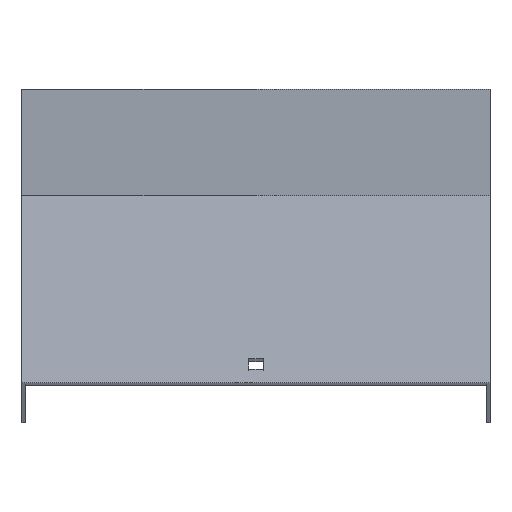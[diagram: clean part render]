
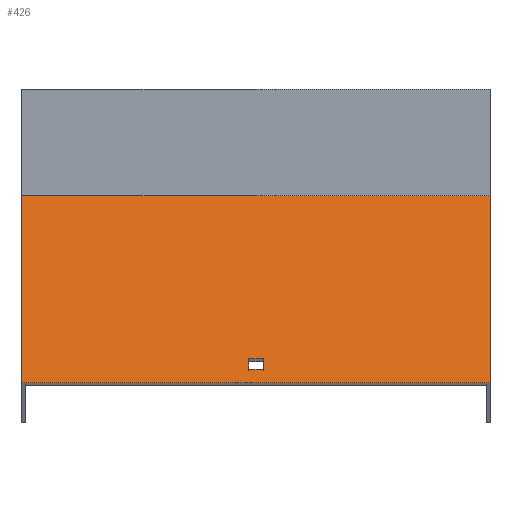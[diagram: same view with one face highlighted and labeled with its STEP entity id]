
A CAD part, top view. The second image highlights one B-rep face of the part: STEP entity #426.
In plain terms, the highlighted planar face has unit normal (0, 0.866, 0.5).
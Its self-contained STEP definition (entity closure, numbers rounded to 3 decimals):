
#16 = LINE ( 'NONE', #81, #775 ) ;
#34 = ORIENTED_EDGE ( 'NONE', *, *, #731, .T. ) ;
#55 = LINE ( 'NONE', #381, #740 ) ;
#57 = CARTESIAN_POINT ( 'NONE',  ( 101.5, -27.973, 339.037 ) ) ;
#65 = DIRECTION ( 'NONE',  ( 0., 0.5, -0.866 ) ) ;
#73 = ORIENTED_EDGE ( 'NONE', *, *, #350, .T. ) ;
#81 = CARTESIAN_POINT ( 'NONE',  ( 101.5, -26.656, 336.757 ) ) ;
#90 = ORIENTED_EDGE ( 'NONE', *, *, #515, .T. ) ;
#104 = VERTEX_POINT ( 'NONE', #776 ) ;
#120 = CARTESIAN_POINT ( 'NONE',  ( 101.5, -97.473, 459.415 ) ) ;
#123 = EDGE_CURVE ( 'NONE', #104, #484, #326, .T. ) ;
#125 = EDGE_CURVE ( 'NONE', #681, #632, #581, .T. ) ;
#140 = CARTESIAN_POINT ( 'NONE',  ( 3.25, -101.973, 467.209 ) ) ;
#145 = VERTEX_POINT ( 'NONE', #854 ) ;
#147 = VECTOR ( 'NONE', #246, 1000. ) ;
#160 = ORIENTED_EDGE ( 'NONE', *, *, #123, .F. ) ;
#168 = VERTEX_POINT ( 'NONE', #672 ) ;
#169 = LINE ( 'NONE', #368, #281 ) ;
#171 = CARTESIAN_POINT ( 'NONE',  ( -101.5, -27.973, 339.037 ) ) ;
#179 = ORIENTED_EDGE ( 'NONE', *, *, #412, .F. ) ;
#180 = FACE_BOUND ( 'NONE', #212, .T. ) ;
#182 = CARTESIAN_POINT ( 'NONE',  ( -3.25, -27.973, 339.037 ) ) ;
#192 = PLANE ( 'NONE',  #439 ) ;
#212 = EDGE_LOOP ( 'NONE', ( #90, #73, #288, #339 ) ) ;
#246 = DIRECTION ( 'NONE',  ( 0., -0.5, 0.866 ) ) ;
#275 = DIRECTION ( 'NONE',  ( -1., 0., 0. ) ) ;
#281 = VECTOR ( 'NONE', #301, 1000. ) ;
#288 = ORIENTED_EDGE ( 'NONE', *, *, #762, .T. ) ;
#301 = DIRECTION ( 'NONE',  ( 0., -0.5, 0.866 ) ) ;
#326 = LINE ( 'NONE', #654, #147 ) ;
#339 = ORIENTED_EDGE ( 'NONE', *, *, #125, .T. ) ;
#350 = EDGE_CURVE ( 'NONE', #792, #571, #169, .T. ) ;
#368 = CARTESIAN_POINT ( 'NONE',  ( 3.25, -27.973, 339.037 ) ) ;
#369 = LINE ( 'NONE', #171, #630 ) ;
#381 = CARTESIAN_POINT ( 'NONE',  ( 101.5, -101.973, 467.209 ) ) ;
#390 = DIRECTION ( 'NONE',  ( 0., 0.5, -0.866 ) ) ;
#398 = DIRECTION ( 'NONE',  ( 0., -0.866, -0.5 ) ) ;
#412 = EDGE_CURVE ( 'NONE', #484, #145, #647, .T. ) ;
#426 = ADVANCED_FACE ( 'NONE', ( #180, #853 ), #192, .F. ) ;
#439 = AXIS2_PLACEMENT_3D ( 'NONE', #57, #398, #390 ) ;
#452 = DIRECTION ( 'NONE',  ( 0., -0.5, 0.866 ) ) ;
#460 = CARTESIAN_POINT ( 'NONE',  ( 101.5, -107.973, 477.601 ) ) ;
#484 = VERTEX_POINT ( 'NONE', #599 ) ;
#515 = EDGE_CURVE ( 'NONE', #632, #792, #651, .T. ) ;
#524 = VECTOR ( 'NONE', #65, 1000. ) ;
#571 = VERTEX_POINT ( 'NONE', #140 ) ;
#581 = LINE ( 'NONE', #182, #524 ) ;
#591 = DIRECTION ( 'NONE',  ( 1., 0., 0. ) ) ;
#595 = DIRECTION ( 'NONE',  ( -1., 0., 0. ) ) ;
#599 = CARTESIAN_POINT ( 'NONE',  ( 101.5, -107.973, 477.601 ) ) ;
#601 = EDGE_CURVE ( 'NONE', #104, #168, #16, .T. ) ;
#612 = CARTESIAN_POINT ( 'NONE',  ( -3.25, -97.473, 459.415 ) ) ;
#630 = VECTOR ( 'NONE', #452, 1000. ) ;
#632 = VERTEX_POINT ( 'NONE', #612 ) ;
#647 = LINE ( 'NONE', #460, #706 ) ;
#651 = LINE ( 'NONE', #120, #665 ) ;
#653 = CARTESIAN_POINT ( 'NONE',  ( 3.25, -97.473, 459.415 ) ) ;
#654 = CARTESIAN_POINT ( 'NONE',  ( 101.5, -27.973, 339.037 ) ) ;
#665 = VECTOR ( 'NONE', #591, 1000. ) ;
#672 = CARTESIAN_POINT ( 'NONE',  ( -101.5, -26.656, 336.757 ) ) ;
#681 = VERTEX_POINT ( 'NONE', #838 ) ;
#706 = VECTOR ( 'NONE', #717, 1000. ) ;
#709 = ORIENTED_EDGE ( 'NONE', *, *, #601, .T. ) ;
#717 = DIRECTION ( 'NONE',  ( -1., 0., 0. ) ) ;
#731 = EDGE_CURVE ( 'NONE', #168, #145, #369, .T. ) ;
#734 = EDGE_LOOP ( 'NONE', ( #34, #179, #160, #709 ) ) ;
#740 = VECTOR ( 'NONE', #595, 1000. ) ;
#762 = EDGE_CURVE ( 'NONE', #571, #681, #55, .T. ) ;
#775 = VECTOR ( 'NONE', #275, 1000. ) ;
#776 = CARTESIAN_POINT ( 'NONE',  ( 101.5, -26.656, 336.757 ) ) ;
#792 = VERTEX_POINT ( 'NONE', #653 ) ;
#838 = CARTESIAN_POINT ( 'NONE',  ( -3.25, -101.973, 467.209 ) ) ;
#853 = FACE_OUTER_BOUND ( 'NONE', #734, .T. ) ;
#854 = CARTESIAN_POINT ( 'NONE',  ( -101.5, -107.973, 477.601 ) ) ;
